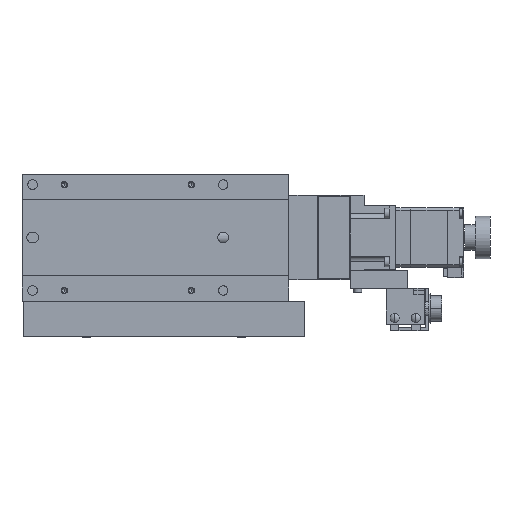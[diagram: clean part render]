
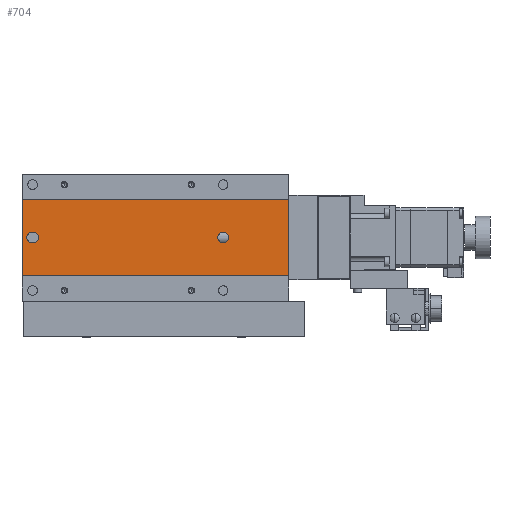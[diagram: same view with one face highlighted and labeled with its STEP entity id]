
A CAD part, front view. The second image highlights one B-rep face of the part: STEP entity #704.
In plain terms, the highlighted planar face has unit normal (0, -1, 0).
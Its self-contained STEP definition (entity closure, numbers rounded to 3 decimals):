
#704=ADVANCED_FACE('',(#1881,#1882,#1883),#1884,.F.);
#1881=FACE_BOUND('',#3445,.T.);
#1882=FACE_OUTER_BOUND('',#3446,.T.);
#1883=FACE_BOUND('',#3447,.T.);
#1884=PLANE('',#3448);
#3445=EDGE_LOOP('',(#7259,#7260,#7261,#7262));
#3446=EDGE_LOOP('',(#7263,#7264,#7265,#7266));
#3447=EDGE_LOOP('',(#7267,#7268,#7269));
#3448=AXIS2_PLACEMENT_3D('',#7270,#7271,#7272);
#7259=ORIENTED_EDGE('',*,*,#11102,.F.);
#7260=ORIENTED_EDGE('',*,*,#11103,.F.);
#7261=ORIENTED_EDGE('',*,*,#11104,.F.);
#7262=ORIENTED_EDGE('',*,*,#11105,.F.);
#7263=ORIENTED_EDGE('',*,*,#11087,.T.);
#7264=ORIENTED_EDGE('',*,*,#11106,.F.);
#7265=ORIENTED_EDGE('',*,*,#11107,.F.);
#7266=ORIENTED_EDGE('',*,*,#11108,.T.);
#7267=ORIENTED_EDGE('',*,*,#10987,.F.);
#7268=ORIENTED_EDGE('',*,*,#10986,.F.);
#7269=ORIENTED_EDGE('',*,*,#11109,.F.);
#7270=CARTESIAN_POINT('',(76.0,0.3,18.1));
#7271=DIRECTION('',(0.0,1.0,0.));
#7272=DIRECTION('',(1.0,0.0,0.0));
#10986=EDGE_CURVE('',#13426,#13428,#13429,.F.);
#10987=EDGE_CURVE('',#13428,#13422,#13430,.F.);
#11087=EDGE_CURVE('',#13617,#13615,#13618,.T.);
#11102=EDGE_CURVE('',#13645,#13646,#13647,.F.);
#11103=EDGE_CURVE('',#13648,#13645,#13649,.T.);
#11104=EDGE_CURVE('',#13650,#13648,#13651,.F.);
#11105=EDGE_CURVE('',#13646,#13650,#13652,.T.);
#11106=EDGE_CURVE('',#13653,#13615,#13654,.T.);
#11107=EDGE_CURVE('',#13655,#13653,#13656,.T.);
#11108=EDGE_CURVE('',#13655,#13617,#13657,.T.);
#11109=EDGE_CURVE('',#13422,#13426,#13658,.F.);
#13422=VERTEX_POINT('',#17098);
#13426=VERTEX_POINT('',#17103);
#13428=VERTEX_POINT('',#17106);
#13429=CIRCLE('',#17107,2.5);
#13430=CIRCLE('',#17108,2.5);
#13615=VERTEX_POINT('',#17349);
#13617=VERTEX_POINT('',#17352);
#13618=LINE('',#17353,#17354);
#13645=VERTEX_POINT('',#17394);
#13646=VERTEX_POINT('',#17395);
#13647=CIRCLE('',#17396,2.5);
#13648=VERTEX_POINT('',#17397);
#13649=LINE('',#17398,#17399);
#13650=VERTEX_POINT('',#17400);
#13651=CIRCLE('',#17401,2.5);
#13652=LINE('',#17402,#17403);
#13653=VERTEX_POINT('',#17404);
#13654=LINE('',#17405,#17406);
#13655=VERTEX_POINT('',#17407);
#13656=LINE('',#17408,#17409);
#13657=LINE('',#17410,#17411);
#13658=CIRCLE('',#17412,2.5);
#17098=CARTESIAN_POINT('',(42.5,0.3,0.));
#17103=CARTESIAN_POINT('',(47.5,0.3,0.));
#17106=CARTESIAN_POINT('',(45.0,0.3,2.5));
#17107=AXIS2_PLACEMENT_3D('',#20972,#20973,#20974);
#17108=AXIS2_PLACEMENT_3D('',#20975,#20976,#20977);
#17349=CARTESIAN_POINT('',(-50.0,0.3,-18.1));
#17352=CARTESIAN_POINT('',(-50.0,0.3,18.1));
#17353=CARTESIAN_POINT('',(-50.0,0.3,18.1));
#17354=VECTOR('',#21161,1000.0);
#17394=CARTESIAN_POINT('',(-45.25,0.3,2.5));
#17395=CARTESIAN_POINT('',(-45.25,0.3,-2.5));
#17396=AXIS2_PLACEMENT_3D('',#21178,#21179,#21180);
#17397=CARTESIAN_POINT('',(-44.75,0.3,2.5));
#17398=CARTESIAN_POINT('',(76.0,0.3,2.5));
#17399=VECTOR('',#21181,1000.0);
#17400=CARTESIAN_POINT('',(-44.75,0.3,-2.5));
#17401=AXIS2_PLACEMENT_3D('',#21182,#21183,#21184);
#17402=CARTESIAN_POINT('',(76.0,0.3,-2.5));
#17403=VECTOR('',#21185,1000.0);
#17404=CARTESIAN_POINT('',(76.0,0.3,-18.1));
#17405=CARTESIAN_POINT('',(76.0,0.3,-18.1));
#17406=VECTOR('',#21186,1000.0);
#17407=CARTESIAN_POINT('',(76.0,0.3,18.1));
#17408=CARTESIAN_POINT('',(76.0,0.3,18.1));
#17409=VECTOR('',#21187,1000.0);
#17410=CARTESIAN_POINT('',(76.0,0.3,18.1));
#17411=VECTOR('',#21188,1000.0);
#17412=AXIS2_PLACEMENT_3D('',#21189,#21190,#21191);
#20972=CARTESIAN_POINT('',(45.0,0.3,0.0));
#20973=DIRECTION('',(0.0,1.0,0.));
#20974=DIRECTION('',(0.0,0.,1.0));
#20975=CARTESIAN_POINT('',(45.0,0.3,0.0));
#20976=DIRECTION('',(0.0,1.0,0.));
#20977=DIRECTION('',(0.0,0.,1.0));
#21161=DIRECTION('',(0.0,0.,-1.0));
#21178=CARTESIAN_POINT('',(-45.25,0.3,0.));
#21179=DIRECTION('',(0.0,1.0,0.));
#21180=DIRECTION('',(0.0,0.,1.0));
#21181=DIRECTION('',(-1.0,0.0,0.0));
#21182=CARTESIAN_POINT('',(-44.75,0.3,0.));
#21183=DIRECTION('',(0.0,1.0,0.));
#21184=DIRECTION('',(0.0,0.,1.0));
#21185=DIRECTION('',(1.0,0.0,0.0));
#21186=DIRECTION('',(-1.0,0.0,0.0));
#21187=DIRECTION('',(0.0,0.,-1.0));
#21188=DIRECTION('',(-1.0,0.0,0.0));
#21189=CARTESIAN_POINT('',(45.0,0.3,0.0));
#21190=DIRECTION('',(0.0,1.0,0.));
#21191=DIRECTION('',(0.0,0.,1.0));
